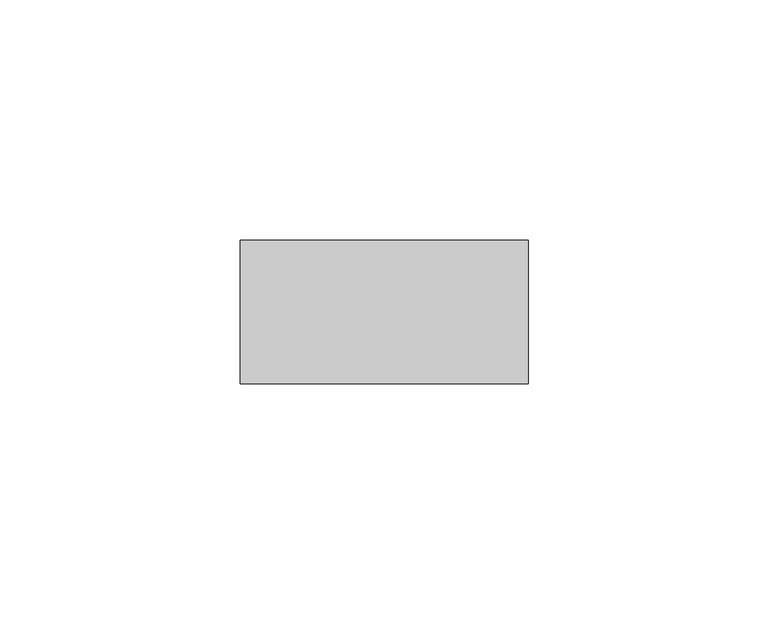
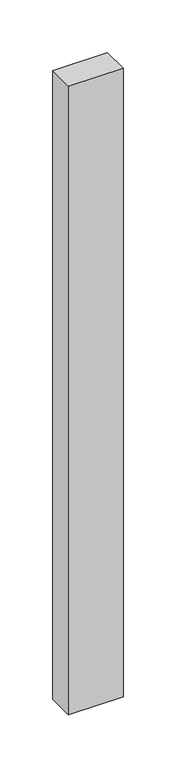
"""IFC4 building model written with IfcOpenShell, lengths in millimetres: member geometry, Прямоугольный импост : Квадрат 30 мм."""

import ifcopenshell
import ifcopenshell.guid

model = None  # the IFC model being written
_history = None  # IfcOwnerHistory: only IFC2X3 demands one
_inside = {}  # id of a spatial element -> (the spatial element, [elements in it])
_under = {}  # id of a project, library or spatial element -> (it, [spatial elements below it])
_declared = {}  # id of a project -> (the project, [libraries it declares])
_typed = {}  # id of a type object -> (the type object, [elements of that type])
_made_of = {}  # id of a material, layer set ... -> (it, [elements and type objects made of it])


def new_model(schema):
    """Start an empty IFC model of exactly this schema.

    Asked for "IFC4X3", IfcOpenShell would pick the latest addendum, in which some entities
    have other attributes; the version numbers below select the first issue.
    IFC2X3 requires an IfcOwnerHistory on every rooted entity: one is made here for all.
    """
    global model, _history
    if schema == "IFC4X3":
        model = ifcopenshell.file(schema_version=(4, 3, 0, 0))
    else:
        model = ifcopenshell.file(schema=schema)
    _inside.clear()
    _under.clear()
    _declared.clear()
    _typed.clear()
    _made_of.clear()
    _history = None
    if model.schema == "IFC2X3":
        org = make("IfcOrganization", Name="unknown")
        user = make(
            "IfcPersonAndOrganization",
            ThePerson=make("IfcPerson", FamilyName="unknown"),
            TheOrganization=org,
        )
        app = make(
            "IfcApplication",
            ApplicationDeveloper=org,
            Version="unknown",
            ApplicationFullName="unknown",
            ApplicationIdentifier="unknown",
        )
        _history = make(
            "IfcOwnerHistory",
            OwningUser=user,
            OwningApplication=app,
            ChangeAction="ADDED",
            CreationDate=0,
        )
    return model


def make(cls, **values):
    """One entity of the class cls with the attributes given. An attribute that is None is left unset."""
    return model.create_entity(
        cls, **{name: value for name, value in values.items() if value is not None}
    )


def rooted(cls, **values):
    """An entity with a GlobalId (a new one), such as an element, a storey or a relation."""
    return make(cls, GlobalId=ifcopenshell.guid.new(), OwnerHistory=_history, **values)


def si_unit(unit_type, name, prefix=None):
    """IfcSIUnit, for example si_unit("LENGTHUNIT", "METRE", prefix="MILLI")."""
    return make("IfcSIUnit", UnitType=unit_type, Prefix=prefix, Name=name)


def assignment(units):
    """IfcUnitAssignment: the units of a project."""
    return None if units is None else make("IfcUnitAssignment", Units=units)


def point(xyz):
    """IfcCartesianPoint."""
    return None if xyz is None else make("IfcCartesianPoint", Coordinates=xyz)


def direction(xyz):
    """IfcDirection."""
    return None if xyz is None else make("IfcDirection", DirectionRatios=xyz)


def frame(location, z_axis=None, x_axis=None):
    """IfcAxis2Placement3D, a coordinate frame: its origin and axes. An axis left out is left unset."""
    return make(
        "IfcAxis2Placement3D",
        Location=point(location),
        Axis=direction(z_axis),
        RefDirection=direction(x_axis),
    )


def origin():
    """The frame at (0, 0, 0) with its axes left unset."""
    return frame((0.0, 0.0, 0.0))


def place(relative_to, where):
    """IfcLocalPlacement: puts the frame where relative to a parent placement (None: the world)."""
    return make(
        "IfcLocalPlacement", PlacementRelTo=relative_to, RelativePlacement=where
    )


def context(
    kind, dimensions, precision=None, world=None, true_north=None, identifier=None
):
    """IfcGeometricRepresentationContext, for example the 3D "Model" context."""
    return make(
        "IfcGeometricRepresentationContext",
        ContextIdentifier=identifier,
        ContextType=kind,
        CoordinateSpaceDimension=dimensions,
        Precision=precision,
        WorldCoordinateSystem=world,
        TrueNorth=true_north,
    )


def project(units=None, contexts=None):
    """IfcProject with its units and contexts."""
    return rooted(
        "IfcProject",
        Name="project",
        RepresentationContexts=contexts,
        UnitsInContext=assignment(units),
    )


def spatial(cls, under=None, at=None, **own):
    """A site, building, storey or space (cls), placed at a placement, below another one or the project."""
    s = rooted(cls, ObjectPlacement=at, **own)
    if under is not None:
        _under.setdefault(under.id(), (under, []))[1].append(s)
    return s


def polyline(points):
    """IfcPolyline through the points."""
    return make("IfcPolyline", Points=[point(p) for p in points])


def outline(outer, holes=None, kind="AREA"):
    """IfcArbitraryClosedProfileDef: a profile drawn as a closed curve; with holes, ...WithVoids."""
    if holes is None:
        return make("IfcArbitraryClosedProfileDef", ProfileType=kind, OuterCurve=outer)
    return make(
        "IfcArbitraryProfileDefWithVoids",
        ProfileType=kind,
        OuterCurve=outer,
        InnerCurves=holes,
    )


def extrude(swept, where, along, depth):
    """IfcExtrudedAreaSolid: the profile swept, set in the frame where, extruded along a direction by depth."""
    return make(
        "IfcExtrudedAreaSolid",
        SweptArea=swept,
        Position=where,
        ExtrudedDirection=direction(along),
        Depth=depth,
    )


def shape(context_of_items, identifier, shape_type, items):
    """IfcShapeRepresentation: the items that make up one representation, for example the "Body"."""
    return make(
        "IfcShapeRepresentation",
        ContextOfItems=context_of_items,
        RepresentationIdentifier=identifier,
        RepresentationType=shape_type,
        Items=items,
    )


def source(mapping_origin, context_of_items, identifier, shape_type, items):
    """IfcRepresentationMap: a shape defined once, which mapped items show again and again."""
    return make(
        "IfcRepresentationMap",
        MappingOrigin=mapping_origin,
        MappedRepresentation=shape(context_of_items, identifier, shape_type, items),
    )


def transform(
    local_origin,
    x_axis=None,
    y_axis=None,
    z_axis=None,
    scale=None,
    scale2=None,
    scale3=None,
    uniform=True,
):
    """IfcCartesianTransformationOperator3D, or its non-uniform kind. x_axis, y_axis, z_axis: its Axis1, 2, 3."""
    if uniform:
        return make(
            "IfcCartesianTransformationOperator3D",
            Axis1=direction(x_axis),
            Axis2=direction(y_axis),
            LocalOrigin=point(local_origin),
            Scale=scale,
            Axis3=direction(z_axis),
        )
    return make(
        "IfcCartesianTransformationOperator3DnonUniform",
        Axis1=direction(x_axis),
        Axis2=direction(y_axis),
        LocalOrigin=point(local_origin),
        Scale=scale,
        Axis3=direction(z_axis),
        Scale2=scale2,
        Scale3=scale3,
    )


def mapped(mapping_source, mapping_target):
    """IfcMappedItem: shows the shape of a source again, moved by a transform."""
    return make(
        "IfcMappedItem", MappingSource=mapping_source, MappingTarget=mapping_target
    )


def made_of(thing, what):
    """Note that an element or type object is made of a material, layer set ...; save() writes the relation."""
    if what is not None:
        _made_of.setdefault(what.id(), (what, []))[1].append(thing)
    return thing


def element(
    cls,
    number,
    at=None,
    inside=None,
    cuts=None,
    type_object=None,
    material=None,
    context=None,
    identifier="Body",
    shape_type=None,
    held_by="IfcProductDefinitionShape",
    body=None,
    shapes=None,
    **own,
):
    """One element of the class cls, such as IfcWall. Its Tag is "e" and its number.

    at: its placement. inside: the storey or other place that contains it. cuts: it is an
    opening in that element (IfcRelVoidsElement). A single representation is given by context,
    identifier, shape_type and body (its items); several are given by shapes. held_by: the class
    of the entity that holds the representations. save() writes the other relations.
    """
    e = rooted(cls, Tag="e%d" % number, ObjectPlacement=at, **own)
    if body is not None:
        shapes = [shape(context, identifier, shape_type, body)]
    if shapes is not None:
        e.Representation = make(held_by, Representations=shapes)
    if inside is not None:
        _inside.setdefault(inside.id(), (inside, []))[1].append(e)
    if cuts is not None:
        rooted(
            "IfcRelVoidsElement", RelatingBuildingElement=cuts, RelatedOpeningElement=e
        )
    if type_object is not None:
        _typed.setdefault(type_object.id(), (type_object, []))[1].append(e)
    return made_of(e, material)


def aggregate(whole, parts):
    """IfcRelAggregates: a whole, such as a stair, and the parts it consists of."""
    return rooted("IfcRelAggregates", RelatingObject=whole, RelatedObjects=parts)


def save(model, path):
    """Write the relations noted so far, then the file.

    IfcRelAggregates (storeys below a building ...), IfcRelContainedInSpatialStructure (elements
    in a storey), IfcRelDefinesByType, IfcRelAssociatesMaterial and IfcRelDeclares: one each for
    every whole, place, type object, material and project.
    """
    for whole, parts in _under.values():
        aggregate(whole, parts)
    for where, things in _inside.values():
        rooted(
            "IfcRelContainedInSpatialStructure",
            RelatedElements=things,
            RelatingStructure=where,
        )
    for kind, things in _typed.values():
        rooted("IfcRelDefinesByType", RelatedObjects=things, RelatingType=kind)
    for what, things in _made_of.values():
        rooted("IfcRelAssociatesMaterial", RelatedObjects=things, RelatingMaterial=what)
    for by, libraries in _declared.values():
        rooted("IfcRelDeclares", RelatingContext=by, RelatedDefinitions=libraries)
    model.write(path)


def member_0775dff4(model_context):
    return source(origin(), model_context, "Body", "SweptSolid", [
        extrude(outline(polyline([(30.0, 15.0), (30.0, -15.0), (-30.0, -15.0), (-30.0, 15.0), (30.0, 15.0)])), frame((0.0, 0.0, -730.0), z_axis=(0.0, 0.0, 1.0), x_axis=(1.0, 0.0, 0.0)), (0.0, 0.0, 1.0), 730.0),
    ])


if __name__ == "__main__":
    model = new_model("IFC4")
    model_context = context("Model", 3, world=origin())
    ifc_project = project(units=[si_unit("LENGTHUNIT", "METRE", prefix="MILLI")], contexts=[model_context])
    site = spatial("IfcSite", under=ifc_project)
    building = spatial("IfcBuilding", under=site)
    placement = place(None, origin())
    member_shape = member_0775dff4(model_context)
    element("IfcMember", 1, ObjectType="Прямоугольный импост : Квадрат 30 мм", at=placement, inside=building, context=model_context, shape_type="MappedRepresentation", body=[
        mapped(member_shape, transform((0.0, 0.0, 0.0), x_axis=(1.0, 0.0, 0.0), y_axis=(0.0, 1.0, 0.0), z_axis=(0.0, 0.0, 1.0))),
    ])
    save(model, "model.ifc")
